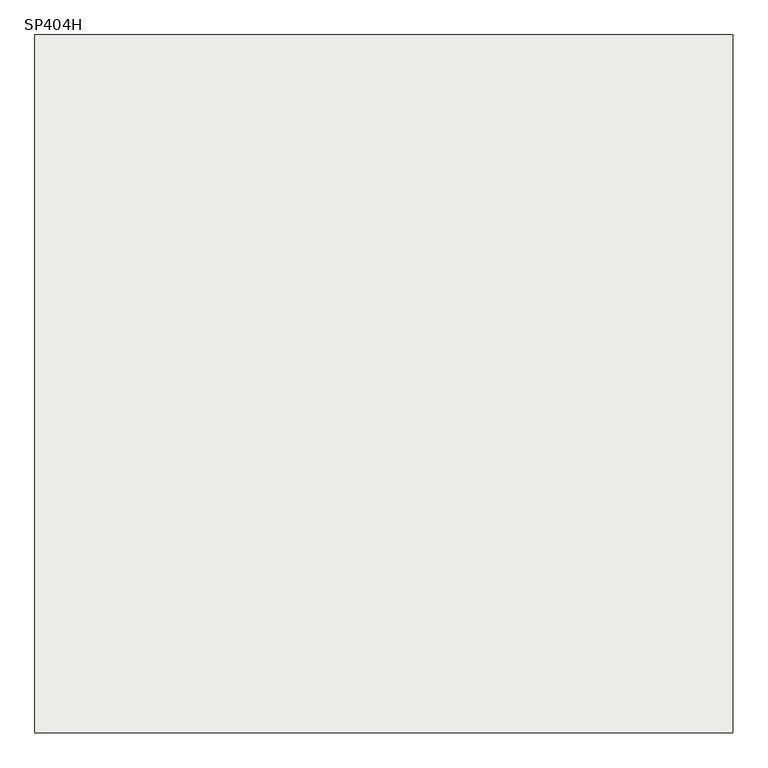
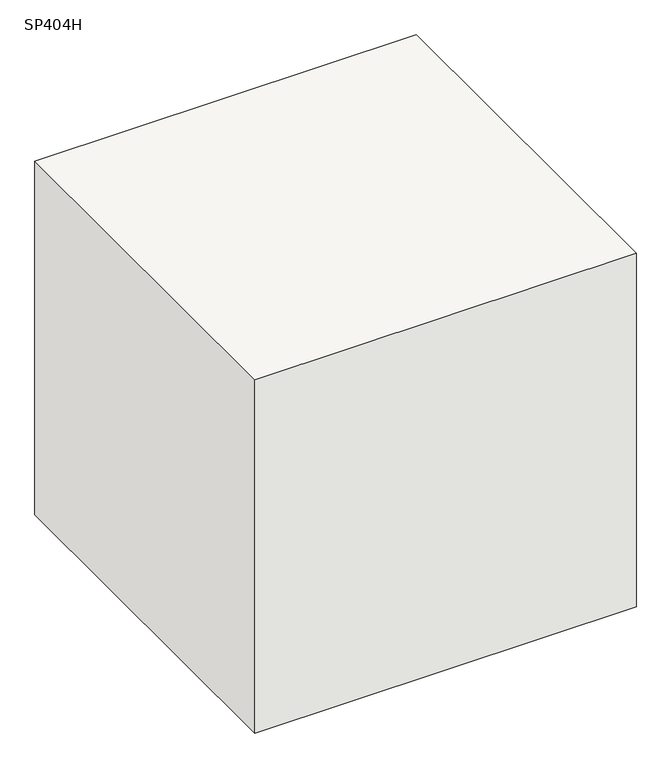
"""IFC4 building model written with IfcOpenShell, lengths in millimetres: slab geometry, 柱形_SP : SP404H."""

from ifc_helpers import new_model, si_unit, frame, origin, place, context, project, spatial, polyline, outline, extrude, source, transform, mapped, element, save


def sp404h_84e5b0d5(model_context):
    return source(origin(), model_context, "Body", "SweptSolid", [
        extrude(outline(polyline([(510.0, 510.0), (510.0, -510.0), (-510.0, -510.0), (-510.0, 510.0), (510.0, 510.0)])), frame((0.0, 0.0, -1000.0), z_axis=(0.0, 0.0, 1.0), x_axis=(1.0, 0.0, 0.0)), (0.0, 0.0, 1.0), 1000.0),
    ])


if __name__ == "__main__":
    model = new_model("IFC4")
    model_context = context("Model", 3, world=origin())
    ifc_project = project(units=[si_unit("LENGTHUNIT", "METRE", prefix="MILLI")], contexts=[model_context])
    site = spatial("IfcSite", under=ifc_project)
    building = spatial("IfcBuilding", under=site)
    placement = place(None, origin())
    sp404h_shape = sp404h_84e5b0d5(model_context)
    element("IfcSlab", 1, ObjectType="柱形_SP : SP404H", at=placement, inside=building, context=model_context, shape_type="MappedRepresentation", body=[
        mapped(sp404h_shape, transform((0.0, 0.0, 0.0), x_axis=(1.0, 0.0, 0.0), y_axis=(0.0, 1.0, 0.0), z_axis=(0.0, 0.0, 1.0))),
    ])
    save(model, "model.ifc")
